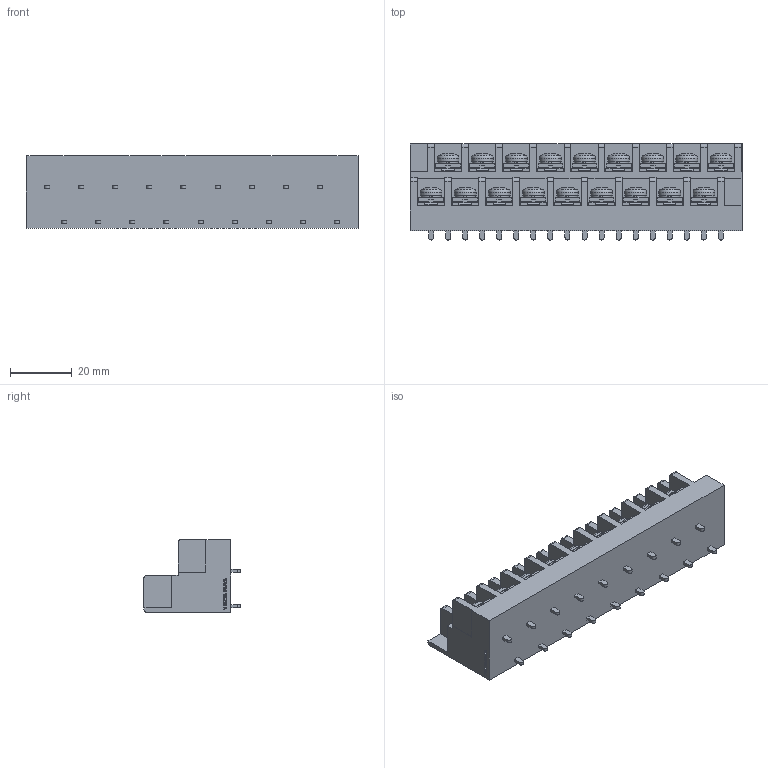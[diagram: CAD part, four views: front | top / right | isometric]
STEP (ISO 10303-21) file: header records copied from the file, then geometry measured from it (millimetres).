
FILE_DESCRIPTION(/* description */ ('Alibre Inc.'),/* implementation_level */ '2;1');
FILE_NAME(/* name */ 'export0',/* time_stamp */ '2016-08-05T12:04:17+09:00',/* author */ (''),/* organization */ (''),/* preprocessor_version */ 'ST-DEVELOPER v14',/* originating_system */ 'Alibre',/* authorisation */ '');
FILE_SCHEMA (('CONFIG_CONTROL_DESIGN'));
Length unit declared in the file: centimetre
Products named in the file (1): ID_1
Bounding box: 107.1 x 31 x 23.5 mm (x, y, z)
Volume: 45244.4 mm3; surface area: 21060.4 mm2
Topology: 1 solids, 161 shells, 3749 faces, 9798 edges, 6454 vertices
Faces by surface type: plane 2904, bspline 572, cylinder 147, cone 72, torus 36, sphere 18
Full cylindrical faces by diameter (mm): 4 x18, 7 x18
Entity records: 109279 total; most frequent: CARTESIAN_POINT 25112, ORIENTED_EDGE 19560, DIRECTION 12218, EDGE_CURVE 9708, VECTOR 7307, LINE 7307, VERTEX_POINT 6436, EDGE_LOOP 4056
